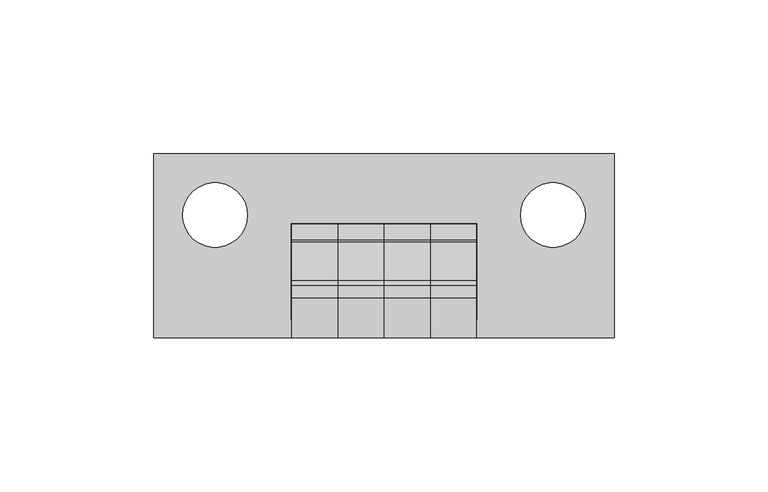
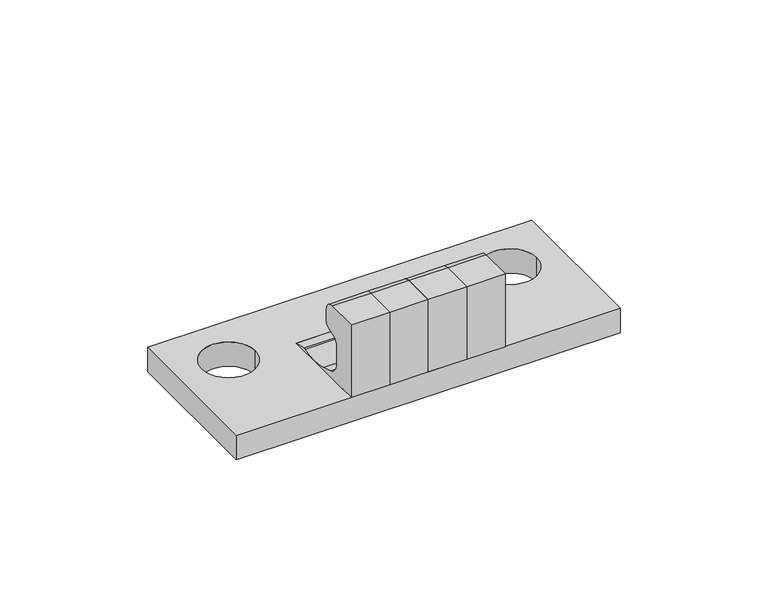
"""IFC4 building model written with IfcOpenShell, lengths in millimetres: fastener geometry, REC_FBAIGCEQ : FBAIGCEQ."""

import ifcopenshell
import ifcopenshell.guid

model = None  # the IFC model being written
_history = None  # IfcOwnerHistory: only IFC2X3 demands one
_inside = {}  # id of a spatial element -> (the spatial element, [elements in it])
_under = {}  # id of a project, library or spatial element -> (it, [spatial elements below it])
_declared = {}  # id of a project -> (the project, [libraries it declares])
_typed = {}  # id of a type object -> (the type object, [elements of that type])
_made_of = {}  # id of a material, layer set ... -> (it, [elements and type objects made of it])


def new_model(schema):
    """Start an empty IFC model of exactly this schema.

    Asked for "IFC4X3", IfcOpenShell would pick the latest addendum, in which some entities
    have other attributes; the version numbers below select the first issue.
    IFC2X3 requires an IfcOwnerHistory on every rooted entity: one is made here for all.
    """
    global model, _history
    if schema == "IFC4X3":
        model = ifcopenshell.file(schema_version=(4, 3, 0, 0))
    else:
        model = ifcopenshell.file(schema=schema)
    _inside.clear()
    _under.clear()
    _declared.clear()
    _typed.clear()
    _made_of.clear()
    _history = None
    if model.schema == "IFC2X3":
        org = make("IfcOrganization", Name="unknown")
        user = make(
            "IfcPersonAndOrganization",
            ThePerson=make("IfcPerson", FamilyName="unknown"),
            TheOrganization=org,
        )
        app = make(
            "IfcApplication",
            ApplicationDeveloper=org,
            Version="unknown",
            ApplicationFullName="unknown",
            ApplicationIdentifier="unknown",
        )
        _history = make(
            "IfcOwnerHistory",
            OwningUser=user,
            OwningApplication=app,
            ChangeAction="ADDED",
            CreationDate=0,
        )
    return model


def make(cls, **values):
    """One entity of the class cls with the attributes given. An attribute that is None is left unset."""
    return model.create_entity(
        cls, **{name: value for name, value in values.items() if value is not None}
    )


def rooted(cls, **values):
    """An entity with a GlobalId (a new one), such as an element, a storey or a relation."""
    return make(cls, GlobalId=ifcopenshell.guid.new(), OwnerHistory=_history, **values)


def si_unit(unit_type, name, prefix=None):
    """IfcSIUnit, for example si_unit("LENGTHUNIT", "METRE", prefix="MILLI")."""
    return make("IfcSIUnit", UnitType=unit_type, Prefix=prefix, Name=name)


def assignment(units):
    """IfcUnitAssignment: the units of a project."""
    return None if units is None else make("IfcUnitAssignment", Units=units)


def point(xyz):
    """IfcCartesianPoint."""
    return None if xyz is None else make("IfcCartesianPoint", Coordinates=xyz)


def direction(xyz):
    """IfcDirection."""
    return None if xyz is None else make("IfcDirection", DirectionRatios=xyz)


def frame(location, z_axis=None, x_axis=None):
    """IfcAxis2Placement3D, a coordinate frame: its origin and axes. An axis left out is left unset."""
    return make(
        "IfcAxis2Placement3D",
        Location=point(location),
        Axis=direction(z_axis),
        RefDirection=direction(x_axis),
    )


def frame_2d(location, x_axis=None):
    """IfcAxis2Placement2D, a coordinate frame in the plane: its origin and x axis."""
    return make(
        "IfcAxis2Placement2D", Location=point(location), RefDirection=direction(x_axis)
    )


def origin():
    """The frame at (0, 0, 0) with its axes left unset."""
    return frame((0.0, 0.0, 0.0))


def origin_with_axes():
    """The frame at (0, 0, 0) with the z axis (0, 0, 1) and the x axis (1, 0, 0) written out."""
    return frame((0.0, 0.0, 0.0), z_axis=(0.0, 0.0, 1.0), x_axis=(1.0, 0.0, 0.0))


def place(relative_to, where):
    """IfcLocalPlacement: puts the frame where relative to a parent placement (None: the world)."""
    return make(
        "IfcLocalPlacement", PlacementRelTo=relative_to, RelativePlacement=where
    )


def context(
    kind, dimensions, precision=None, world=None, true_north=None, identifier=None
):
    """IfcGeometricRepresentationContext, for example the 3D "Model" context."""
    return make(
        "IfcGeometricRepresentationContext",
        ContextIdentifier=identifier,
        ContextType=kind,
        CoordinateSpaceDimension=dimensions,
        Precision=precision,
        WorldCoordinateSystem=world,
        TrueNorth=true_north,
    )


def project(units=None, contexts=None):
    """IfcProject with its units and contexts."""
    return rooted(
        "IfcProject",
        Name="project",
        RepresentationContexts=contexts,
        UnitsInContext=assignment(units),
    )


def spatial(cls, under=None, at=None, **own):
    """A site, building, storey or space (cls), placed at a placement, below another one or the project."""
    s = rooted(cls, ObjectPlacement=at, **own)
    if under is not None:
        _under.setdefault(under.id(), (under, []))[1].append(s)
    return s


def polyline(points):
    """IfcPolyline through the points."""
    return make("IfcPolyline", Points=[point(p) for p in points])


def circle_curve(where, radius):
    """IfcCircle in the frame where."""
    return make("IfcCircle", Position=where, Radius=radius)


def trimmed(basis, trim1, trim2, sense, master):
    """IfcTrimmedCurve: the piece of a basis curve between two trims."""
    return make(
        "IfcTrimmedCurve",
        BasisCurve=basis,
        Trim1=trim1,
        Trim2=trim2,
        SenseAgreement=sense,
        MasterRepresentation=master,
    )


def segment(curve, same_sense, transition):
    """IfcCompositeCurveSegment."""
    return make(
        "IfcCompositeCurveSegment",
        Transition=transition,
        SameSense=same_sense,
        ParentCurve=curve,
    )


def composite_curve(segments, self_intersect=None):
    """IfcCompositeCurve: segments joined end to end."""
    return make("IfcCompositeCurve", Segments=segments, SelfIntersect=self_intersect)


def outline(outer, holes=None, kind="AREA"):
    """IfcArbitraryClosedProfileDef: a profile drawn as a closed curve; with holes, ...WithVoids."""
    if holes is None:
        return make("IfcArbitraryClosedProfileDef", ProfileType=kind, OuterCurve=outer)
    return make(
        "IfcArbitraryProfileDefWithVoids",
        ProfileType=kind,
        OuterCurve=outer,
        InnerCurves=holes,
    )


def extrude(swept, where, along, depth):
    """IfcExtrudedAreaSolid: the profile swept, set in the frame where, extruded along a direction by depth."""
    return make(
        "IfcExtrudedAreaSolid",
        SweptArea=swept,
        Position=where,
        ExtrudedDirection=direction(along),
        Depth=depth,
    )


def shape(context_of_items, identifier, shape_type, items):
    """IfcShapeRepresentation: the items that make up one representation, for example the "Body"."""
    return make(
        "IfcShapeRepresentation",
        ContextOfItems=context_of_items,
        RepresentationIdentifier=identifier,
        RepresentationType=shape_type,
        Items=items,
    )


def source(mapping_origin, context_of_items, identifier, shape_type, items):
    """IfcRepresentationMap: a shape defined once, which mapped items show again and again."""
    return make(
        "IfcRepresentationMap",
        MappingOrigin=mapping_origin,
        MappedRepresentation=shape(context_of_items, identifier, shape_type, items),
    )


def transform(
    local_origin,
    x_axis=None,
    y_axis=None,
    z_axis=None,
    scale=None,
    scale2=None,
    scale3=None,
    uniform=True,
):
    """IfcCartesianTransformationOperator3D, or its non-uniform kind. x_axis, y_axis, z_axis: its Axis1, 2, 3."""
    if uniform:
        return make(
            "IfcCartesianTransformationOperator3D",
            Axis1=direction(x_axis),
            Axis2=direction(y_axis),
            LocalOrigin=point(local_origin),
            Scale=scale,
            Axis3=direction(z_axis),
        )
    return make(
        "IfcCartesianTransformationOperator3DnonUniform",
        Axis1=direction(x_axis),
        Axis2=direction(y_axis),
        LocalOrigin=point(local_origin),
        Scale=scale,
        Axis3=direction(z_axis),
        Scale2=scale2,
        Scale3=scale3,
    )


def mapped(mapping_source, mapping_target):
    """IfcMappedItem: shows the shape of a source again, moved by a transform."""
    return make(
        "IfcMappedItem", MappingSource=mapping_source, MappingTarget=mapping_target
    )


def made_of(thing, what):
    """Note that an element or type object is made of a material, layer set ...; save() writes the relation."""
    if what is not None:
        _made_of.setdefault(what.id(), (what, []))[1].append(thing)
    return thing


def element(
    cls,
    number,
    at=None,
    inside=None,
    cuts=None,
    type_object=None,
    material=None,
    context=None,
    identifier="Body",
    shape_type=None,
    held_by="IfcProductDefinitionShape",
    body=None,
    shapes=None,
    **own,
):
    """One element of the class cls, such as IfcWall. Its Tag is "e" and its number.

    at: its placement. inside: the storey or other place that contains it. cuts: it is an
    opening in that element (IfcRelVoidsElement). A single representation is given by context,
    identifier, shape_type and body (its items); several are given by shapes. held_by: the class
    of the entity that holds the representations. save() writes the other relations.
    """
    e = rooted(cls, Tag="e%d" % number, ObjectPlacement=at, **own)
    if body is not None:
        shapes = [shape(context, identifier, shape_type, body)]
    if shapes is not None:
        e.Representation = make(held_by, Representations=shapes)
    if inside is not None:
        _inside.setdefault(inside.id(), (inside, []))[1].append(e)
    if cuts is not None:
        rooted(
            "IfcRelVoidsElement", RelatingBuildingElement=cuts, RelatedOpeningElement=e
        )
    if type_object is not None:
        _typed.setdefault(type_object.id(), (type_object, []))[1].append(e)
    return made_of(e, material)


def aggregate(whole, parts):
    """IfcRelAggregates: a whole, such as a stair, and the parts it consists of."""
    return rooted("IfcRelAggregates", RelatingObject=whole, RelatedObjects=parts)


def save(model, path):
    """Write the relations noted so far, then the file.

    IfcRelAggregates (storeys below a building ...), IfcRelContainedInSpatialStructure (elements
    in a storey), IfcRelDefinesByType, IfcRelAssociatesMaterial and IfcRelDeclares: one each for
    every whole, place, type object, material and project.
    """
    for whole, parts in _under.values():
        aggregate(whole, parts)
    for where, things in _inside.values():
        rooted(
            "IfcRelContainedInSpatialStructure",
            RelatedElements=things,
            RelatingStructure=where,
        )
    for kind, things in _typed.values():
        rooted("IfcRelDefinesByType", RelatedObjects=things, RelatingType=kind)
    for what, things in _made_of.values():
        rooted("IfcRelAssociatesMaterial", RelatedObjects=things, RelatingMaterial=what)
    for by, libraries in _declared.values():
        rooted("IfcRelDeclares", RelatingContext=by, RelatedDefinitions=libraries)
    model.write(path)


def fastener_40bc8d22(model_context):
    return source(origin(), model_context, "Body", "SweptSolid", [
        extrude(outline(composite_curve([segment(polyline([(12.0, 0.0), (12.0, 6.0), (6.0, 6.0), (6.0, 10.0), (0.0, 10.0), (0.0, 40.0), (13.0, 40.0)]), True, "CONTINUOUS"), segment(trimmed(circle_curve(frame_2d((13.0, 36.0)), 4.0), [point((13.0, 40.0))], [point((17.0, 36.0))], False, "CARTESIAN"), True, "CONTINUOUS"), segment(polyline([(17.0, 36.0), (17.0, 31.3793852)]), True, "CONTINUOUS"), segment(trimmed(circle_curve(frame_2d((15.0, 31.3793852)), 2.0), [point((17.0, 31.3793852))], [point((15.6840403, 29.5))], False, "CARTESIAN"), True, "CONTINUOUS"), segment(polyline([(15.6840403, 29.5), (11.9739396, 28.1496338)]), True, "CONTINUOUS"), segment(trimmed(circle_curve(frame_2d((13.0, 25.3305559)), 3.0), [point((11.9739396, 28.1496338))], [point((10.0, 25.3305559))], True, "CARTESIAN"), True, "CONTINUOUS"), segment(polyline([(10.0, 25.3305559), (10.0, 18.2213148)]), True, "CONTINUOUS"), segment(trimmed(circle_curve(frame_2d((16.0, 18.2213148)), 6.0), [point((10.0, 18.2213148))], [point((14.1265006, 12.5213148))], True, "CARTESIAN"), True, "CONTINUOUS"), segment(polyline([(14.1265006, 12.5213148), (18.755002, 11.0)]), True, "CONTINUOUS"), segment(trimmed(circle_curve(frame_2d((25.0, 30.0)), 20.0), [point((18.755002, 11.0))], [point((31.244998, 11.0))], True, "CARTESIAN"), True, "CONTINUOUS"), segment(trimmed(circle_curve(frame_2d((31.7133728, 9.575)), 1.5), [point((31.244998, 11.0))], [point((32.0209501, 11.0431268))], False, "CARTESIAN"), True, "CONTINUOUS"), segment(polyline([(32.0209501, 11.0431268), (37.0, 10.0), (37.0, 6.0), (31.0, 6.0), (31.0, 0.0), (12.0, 0.0)]), True, "CONTINUOUS")], self_intersect=False)), frame((0.0, 0.0, 0.0), z_axis=(1.0, 0.0, 0.0), x_axis=(0.0, 1.0, 0.0)), (0.0, 0.0, 1.0), 15.0),
        extrude(outline(composite_curve([segment(polyline([(12.0, 0.0), (12.0, 6.0), (6.0, 6.0), (6.0, 10.0), (0.0, 10.0), (0.0, 40.0), (13.0, 40.0)]), True, "CONTINUOUS"), segment(trimmed(circle_curve(frame_2d((13.0, 36.0)), 4.0), [point((13.0, 40.0))], [point((17.0, 36.0))], False, "CARTESIAN"), True, "CONTINUOUS"), segment(polyline([(17.0, 36.0), (17.0, 31.3793852)]), True, "CONTINUOUS"), segment(trimmed(circle_curve(frame_2d((15.0, 31.3793852)), 2.0), [point((17.0, 31.3793852))], [point((15.6840403, 29.5))], False, "CARTESIAN"), True, "CONTINUOUS"), segment(polyline([(15.6840403, 29.5), (11.9739396, 28.1496338)]), True, "CONTINUOUS"), segment(trimmed(circle_curve(frame_2d((13.0, 25.3305559)), 3.0), [point((11.9739396, 28.1496338))], [point((10.0, 25.3305559))], True, "CARTESIAN"), True, "CONTINUOUS"), segment(polyline([(10.0, 25.3305559), (10.0, 18.2213148)]), True, "CONTINUOUS"), segment(trimmed(circle_curve(frame_2d((16.0, 18.2213148)), 6.0), [point((10.0, 18.2213148))], [point((14.1265006, 12.5213148))], True, "CARTESIAN"), True, "CONTINUOUS"), segment(polyline([(14.1265006, 12.5213148), (18.755002, 11.0)]), True, "CONTINUOUS"), segment(trimmed(circle_curve(frame_2d((25.0, 30.0)), 20.0), [point((18.755002, 11.0))], [point((31.244998, 11.0))], True, "CARTESIAN"), True, "CONTINUOUS"), segment(trimmed(circle_curve(frame_2d((31.7133728, 9.575)), 1.5), [point((31.244998, 11.0))], [point((32.0209501, 11.0431268))], False, "CARTESIAN"), True, "CONTINUOUS"), segment(polyline([(32.0209501, 11.0431268), (37.0, 10.0), (37.0, 6.0), (31.0, 6.0), (31.0, 0.0), (12.0, 0.0)]), True, "CONTINUOUS")], self_intersect=False)), frame((-30.0, 0.0, 0.0), z_axis=(1.0, 0.0, 0.0), x_axis=(0.0, 1.0, 0.0)), (0.0, 0.0, 1.0), 15.0),
        extrude(outline(composite_curve([segment(polyline([(12.0, 0.0), (12.0, 6.0), (6.0, 6.0), (6.0, 10.0), (0.0, 10.0), (0.0, 40.0), (13.0, 40.0)]), True, "CONTINUOUS"), segment(trimmed(circle_curve(frame_2d((13.0, 36.0)), 4.0), [point((13.0, 40.0))], [point((17.0, 36.0))], False, "CARTESIAN"), True, "CONTINUOUS"), segment(polyline([(17.0, 36.0), (17.0, 31.3793852)]), True, "CONTINUOUS"), segment(trimmed(circle_curve(frame_2d((15.0, 31.3793852)), 2.0), [point((17.0, 31.3793852))], [point((15.6840403, 29.5))], False, "CARTESIAN"), True, "CONTINUOUS"), segment(polyline([(15.6840403, 29.5), (11.9739396, 28.1496338)]), True, "CONTINUOUS"), segment(trimmed(circle_curve(frame_2d((13.0, 25.3305559)), 3.0), [point((11.9739396, 28.1496338))], [point((10.0, 25.3305559))], True, "CARTESIAN"), True, "CONTINUOUS"), segment(polyline([(10.0, 25.3305559), (10.0, 18.2213148)]), True, "CONTINUOUS"), segment(trimmed(circle_curve(frame_2d((16.0, 18.2213148)), 6.0), [point((10.0, 18.2213148))], [point((14.1265006, 12.5213148))], True, "CARTESIAN"), True, "CONTINUOUS"), segment(polyline([(14.1265006, 12.5213148), (18.755002, 11.0)]), True, "CONTINUOUS"), segment(trimmed(circle_curve(frame_2d((25.0, 30.0)), 20.0), [point((18.755002, 11.0))], [point((31.244998, 11.0))], True, "CARTESIAN"), True, "CONTINUOUS"), segment(trimmed(circle_curve(frame_2d((31.7133728, 9.575)), 1.5), [point((31.244998, 11.0))], [point((32.0209501, 11.0431268))], False, "CARTESIAN"), True, "CONTINUOUS"), segment(polyline([(32.0209501, 11.0431268), (37.0, 10.0), (37.0, 6.0), (31.0, 6.0), (31.0, 0.0), (12.0, 0.0)]), True, "CONTINUOUS")], self_intersect=False)), frame((15.0, 0.0, 0.0), z_axis=(1.0, 0.0, 0.0), x_axis=(0.0, 1.0, 0.0)), (0.0, 0.0, 1.0), 15.0),
        extrude(outline(composite_curve([segment(polyline([(12.0, 0.0), (12.0, 6.0), (6.0, 6.0), (6.0, 10.0), (0.0, 10.0), (0.0, 40.0), (13.0, 40.0)]), True, "CONTINUOUS"), segment(trimmed(circle_curve(frame_2d((13.0, 36.0)), 4.0), [point((13.0, 40.0))], [point((17.0, 36.0))], False, "CARTESIAN"), True, "CONTINUOUS"), segment(polyline([(17.0, 36.0), (17.0, 31.3793852)]), True, "CONTINUOUS"), segment(trimmed(circle_curve(frame_2d((15.0, 31.3793852)), 2.0), [point((17.0, 31.3793852))], [point((15.6840403, 29.5))], False, "CARTESIAN"), True, "CONTINUOUS"), segment(polyline([(15.6840403, 29.5), (11.9739396, 28.1496338)]), True, "CONTINUOUS"), segment(trimmed(circle_curve(frame_2d((13.0, 25.3305559)), 3.0), [point((11.9739396, 28.1496338))], [point((10.0, 25.3305559))], True, "CARTESIAN"), True, "CONTINUOUS"), segment(polyline([(10.0, 25.3305559), (10.0, 18.2213148)]), True, "CONTINUOUS"), segment(trimmed(circle_curve(frame_2d((16.0, 18.2213148)), 6.0), [point((10.0, 18.2213148))], [point((14.1265006, 12.5213148))], True, "CARTESIAN"), True, "CONTINUOUS"), segment(polyline([(14.1265006, 12.5213148), (18.755002, 11.0)]), True, "CONTINUOUS"), segment(trimmed(circle_curve(frame_2d((25.0, 30.0)), 20.0), [point((18.755002, 11.0))], [point((31.244998, 11.0))], True, "CARTESIAN"), True, "CONTINUOUS"), segment(trimmed(circle_curve(frame_2d((31.7133728, 9.575)), 1.5), [point((31.244998, 11.0))], [point((32.0209501, 11.0431268))], False, "CARTESIAN"), True, "CONTINUOUS"), segment(polyline([(32.0209501, 11.0431268), (37.0, 10.0), (37.0, 6.0), (31.0, 6.0), (31.0, 0.0), (12.0, 0.0)]), True, "CONTINUOUS")], self_intersect=False)), frame((-15.0, 0.0, 0.0), z_axis=(1.0, 0.0, 0.0), x_axis=(0.0, 1.0, 0.0)), (0.0, 0.0, 1.0), 15.0),
        extrude(outline(polyline([(-75.0, 60.0), (75.0, 60.0), (75.0, 0.0), (-75.0, 0.0), (-75.0, 60.0)]), holes=[polyline([(-30.15, 5.85), (30.15, 5.85), (30.15, 37.15), (-30.15, 37.15), (-30.15, 5.85)]), composite_curve([segment(trimmed(circle_curve(frame_2d((55.0, 40.0)), 10.5), [point((65.5, 40.0))], [point((44.5, 40.0))], True, "CARTESIAN"), True, "CONTINUOUS"), segment(trimmed(circle_curve(frame_2d((55.0, 40.0)), 10.5), [point((44.5, 40.0))], [point((65.5, 40.0))], True, "CARTESIAN"), True, "CONTINUOUS")], self_intersect=False), composite_curve([segment(trimmed(circle_curve(frame_2d((-55.0, 40.0)), 10.5), [point((-44.5, 40.0))], [point((-65.5, 40.0))], True, "CARTESIAN"), True, "CONTINUOUS"), segment(trimmed(circle_curve(frame_2d((-55.0, 40.0)), 10.5), [point((-65.5, 40.0))], [point((-44.5, 40.0))], True, "CARTESIAN"), True, "CONTINUOUS")], self_intersect=False)]), origin_with_axes(), (0.0, 0.0, 1.0), 10.0),
    ])


if __name__ == "__main__":
    model = new_model("IFC4")
    model_context = context("Model", 3, world=origin())
    ifc_project = project(units=[si_unit("LENGTHUNIT", "METRE", prefix="MILLI")], contexts=[model_context])
    site = spatial("IfcSite", under=ifc_project)
    building = spatial("IfcBuilding", under=site)
    placement = place(None, origin())
    fastener_shape = fastener_40bc8d22(model_context)
    element("IfcFastener", 1, ObjectType="REC_FBAIGCEQ : FBAIGCEQ", at=placement, inside=building, context=model_context, shape_type="MappedRepresentation", body=[
        mapped(fastener_shape, transform((0.0, 0.0, 0.0), x_axis=(1.0, 0.0, 0.0), y_axis=(0.0, 1.0, 0.0), z_axis=(0.0, 0.0, 1.0))),
    ])
    save(model, "model.ifc")
